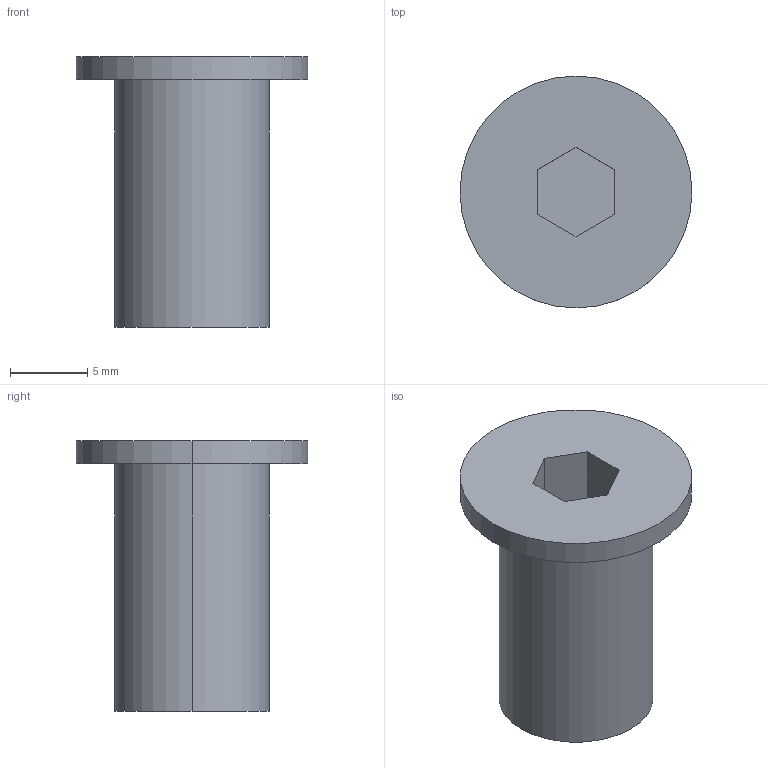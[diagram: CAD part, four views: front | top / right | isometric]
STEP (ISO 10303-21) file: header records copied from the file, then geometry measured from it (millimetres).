
FILE_DESCRIPTION (( 'STEP AP214' ), '1' );
FILE_NAME ('EXTRA_LOW_HEAD_CAP_BOLT_M10(2)(L=016).STEP', '2021-09-19T02:22:20', ( '' ), ( '' ), 'SwSTEP 2.0', 'SolidWorks 2018', '' );
FILE_SCHEMA (( 'AUTOMOTIVE_DESIGN' ));
Length unit declared in the file: millimetre
Products named in the file (1): EXTRA_LOW_HEAD_CAP_BOLT_M10(2)(L=016)
Bounding box: 15 x 15 x 17.5 mm (x, y, z)
Volume: 1391.8 mm3; surface area: 1030.7 mm2
Topology: 1 solids, 1 shells, 14 faces, 30 edges, 20 vertices
Faces by surface type: plane 10, cylinder 4
Entity records: 416 total; most frequent: DIRECTION 68, CARTESIAN_POINT 65, ORIENTED_EDGE 60, EDGE_CURVE 30, AXIS2_PLACEMENT_3D 23, LINE 22, VECTOR 22, VERTEX_POINT 20
